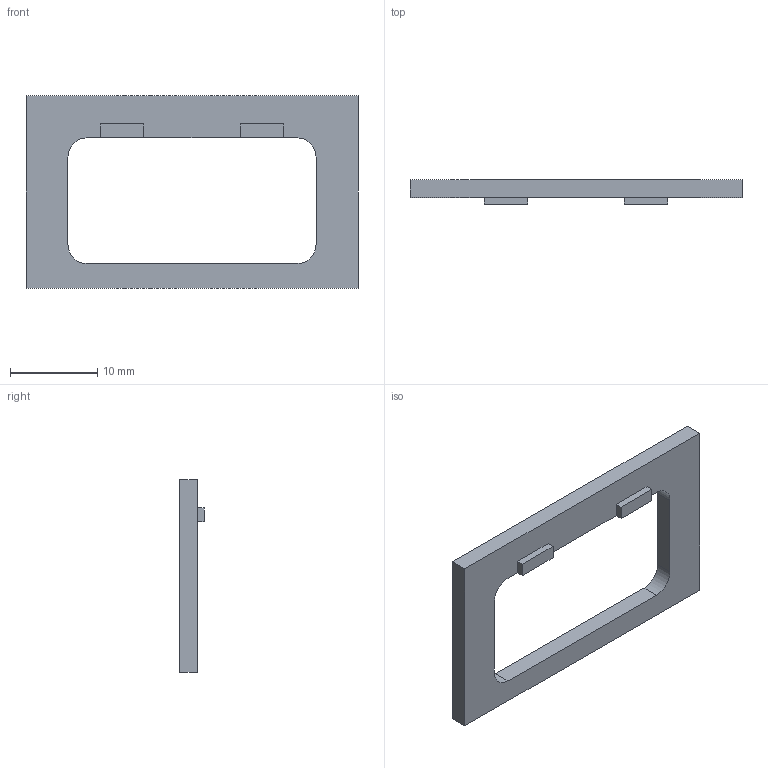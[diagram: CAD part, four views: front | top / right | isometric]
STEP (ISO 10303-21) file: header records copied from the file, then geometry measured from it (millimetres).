
FILE_DESCRIPTION(('Open CASCADE Model'),'2;1');
FILE_NAME('Open CASCADE Shape Model','2026-11-08T17:26:56',('Author'),( 'Open CASCADE'),'Open CASCADE STEP processor 7.8','Open CASCADE 7.8' ,'Unknown');
FILE_SCHEMA(('AUTOMOTIVE_DESIGN { 1 0 10303 214 1 1 1 1 }'));
Length unit declared in the file: millimetre
Products named in the file (1): Open CASCADE STEP translator 7.8 7
Bounding box: 38 x 2.8 x 22 mm (x, y, z)
Volume: 875.2 mm3; surface area: 1287.2 mm2
Topology: 1 solids, 1 shells, 22 faces, 60 edges, 40 vertices
Faces by surface type: plane 18, cylinder 4
Entity records: 1510 total; most frequent: CARTESIAN_POINT 291, DIRECTION 226, LINE 164, VECTOR 164, ORIENTED_EDGE 120, PCURVE 120, DEFINITIONAL_REPRESENTATION 120, EDGE_CURVE 60
